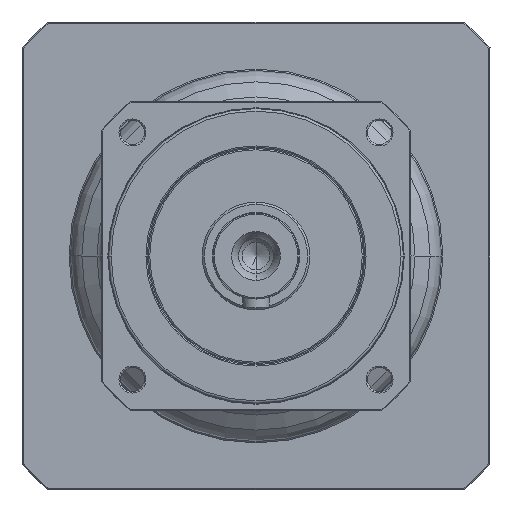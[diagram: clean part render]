
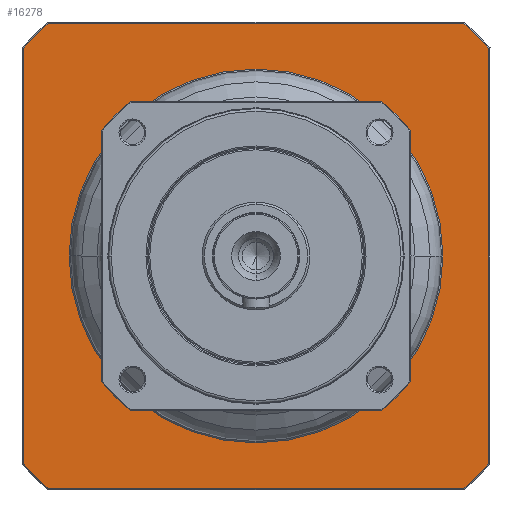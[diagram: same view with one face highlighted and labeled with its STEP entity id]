
A CAD part, left-side view. The second image highlights one B-rep face of the part: STEP entity #16278.
In plain terms, the highlighted planar face has unit normal (-1, 0, 0) as drawn and (0, 0, -1) by its records, which use the part's own axes.
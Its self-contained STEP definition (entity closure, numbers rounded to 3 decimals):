
#15164=CARTESIAN_POINT('',(0.,0.,
2.5));
#15165=DIRECTION('',(0.,0.,-1.));
#15166=DIRECTION('',(0.,-1.,0.));
#15167=AXIS2_PLACEMENT_3D('',#15164,#15165,#15166);
#15169=CARTESIAN_POINT('',(0.,0.,
2.5));
#15170=DIRECTION('',(0.,0.,-1.));
#15171=DIRECTION('',(0.,1.,0.));
#15172=AXIS2_PLACEMENT_3D('',#15169,#15170,#15171);
#15174=CARTESIAN_POINT('',(0.,0.,2.5));
#15175=DIRECTION('',(0.,0.,1.));
#15176=DIRECTION('',(-0.746,-0.666,0.));
#15177=AXIS2_PLACEMENT_3D('',#15174,#15175,#15176);
#15179=DIRECTION('',(1.,0.,0.));
#15180=VECTOR('',#15179,154.58);
#15181=CARTESIAN_POINT('',(-77.29,-86.5,
2.5));
#15182=LINE('',#15181,#15180);
#15183=CARTESIAN_POINT('',(0.,0.,2.5));
#15184=DIRECTION('',(0.,0.,1.));
#15185=DIRECTION('',(0.666,-0.746,0.));
#15186=AXIS2_PLACEMENT_3D('',#15183,#15184,#15185);
#15188=DIRECTION('',(0.,1.,0.));
#15189=VECTOR('',#15188,154.58);
#15190=CARTESIAN_POINT('',(86.5,-77.29,
2.5));
#15191=LINE('',#15190,#15189);
#15192=CARTESIAN_POINT('',(0.,0.,2.5));
#15193=DIRECTION('',(0.,0.,1.));
#15194=DIRECTION('',(0.746,0.666,0.));
#15195=AXIS2_PLACEMENT_3D('',#15192,#15193,#15194);
#15197=DIRECTION('',(-1.,0.,0.));
#15198=VECTOR('',#15197,154.58);
#15199=CARTESIAN_POINT('',(77.29,86.5,2.5));
#15200=LINE('',#15199,#15198);
#15201=CARTESIAN_POINT('',(0.,0.,2.5));
#15202=DIRECTION('',(0.,0.,1.));
#15203=DIRECTION('',(-0.666,0.746,0.));
#15204=AXIS2_PLACEMENT_3D('',#15201,#15202,#15203);
#15206=DIRECTION('',(0.,-1.,0.));
#15207=VECTOR('',#15206,154.58);
#15208=CARTESIAN_POINT('',(-86.5,77.29,
2.5));
#15209=LINE('',#15208,#15207);
#15927=CARTESIAN_POINT('',(0.,-69.5,2.5));
#15928=CARTESIAN_POINT('',(0.,69.5,
2.5));
#15929=VERTEX_POINT('',#15927);
#15930=VERTEX_POINT('',#15928);
#16031=CARTESIAN_POINT('',(-86.5,-77.29,2.5));
#16032=CARTESIAN_POINT('',(-77.29,-86.5,2.5));
#16033=VERTEX_POINT('',#16031);
#16034=VERTEX_POINT('',#16032);
#16039=CARTESIAN_POINT('',(77.29,-86.5,
2.5));
#16040=VERTEX_POINT('',#16039);
#16043=CARTESIAN_POINT('',(86.5,-77.29,2.5));
#16044=VERTEX_POINT('',#16043);
#16047=CARTESIAN_POINT('',(86.5,77.29,2.5));
#16048=VERTEX_POINT('',#16047);
#16051=CARTESIAN_POINT('',(77.29,86.5,2.5));
#16052=VERTEX_POINT('',#16051);
#16055=CARTESIAN_POINT('',(-77.29,86.5,
2.5));
#16056=VERTEX_POINT('',#16055);
#16061=CARTESIAN_POINT('',(-86.5,77.29,2.5));
#16062=VERTEX_POINT('',#16061);
#16250=CARTESIAN_POINT('',(0.,0.,2.5));
#16251=DIRECTION('',(0.,0.,1.));
#16252=DIRECTION('',(0.,1.,0.));
#16253=AXIS2_PLACEMENT_3D('',#16250,#16251,#16252);
#16254=PLANE('',#16253);
#16256=ORIENTED_EDGE('',*,*,#16255,.T.);
#16258=ORIENTED_EDGE('',*,*,#16257,.T.);
#16260=ORIENTED_EDGE('',*,*,#16259,.T.);
#16262=ORIENTED_EDGE('',*,*,#16261,.T.);
#16264=ORIENTED_EDGE('',*,*,#16263,.T.);
#16266=ORIENTED_EDGE('',*,*,#16265,.T.);
#16268=ORIENTED_EDGE('',*,*,#16267,.T.);
#16270=ORIENTED_EDGE('',*,*,#16269,.T.);
#16271=EDGE_LOOP('',(#16256,#16258,#16260,#16262,#16264,#16266,#16268,#16270));
#16272=FACE_OUTER_BOUND('',#16271,.F.);
#16274=ORIENTED_EDGE('',*,*,#16273,.T.);
#16275=ORIENTED_EDGE('',*,*,#16240,.T.);
#16276=EDGE_LOOP('',(#16274,#16275));
#16277=FACE_BOUND('',#16276,.F.);
#16278=ADVANCED_FACE('',(#16272,#16277),#16254,.F.);
#15168=CIRCLE('',#15167,69.5);
#15173=CIRCLE('',#15172,69.5);
#15178=CIRCLE('',#15177,116.);
#15187=CIRCLE('',#15186,116.);
#15196=CIRCLE('',#15195,116.);
#15205=CIRCLE('',#15204,116.);
#16240=EDGE_CURVE('',#15930,#15929,#15173,.T.);
#16255=EDGE_CURVE('',#16033,#16034,#15178,.T.);
#16257=EDGE_CURVE('',#16034,#16040,#15182,.T.);
#16259=EDGE_CURVE('',#16040,#16044,#15187,.T.);
#16261=EDGE_CURVE('',#16044,#16048,#15191,.T.);
#16263=EDGE_CURVE('',#16048,#16052,#15196,.T.);
#16265=EDGE_CURVE('',#16052,#16056,#15200,.T.);
#16267=EDGE_CURVE('',#16056,#16062,#15205,.T.);
#16269=EDGE_CURVE('',#16062,#16033,#15209,.T.);
#16273=EDGE_CURVE('',#15929,#15930,#15168,.T.);
